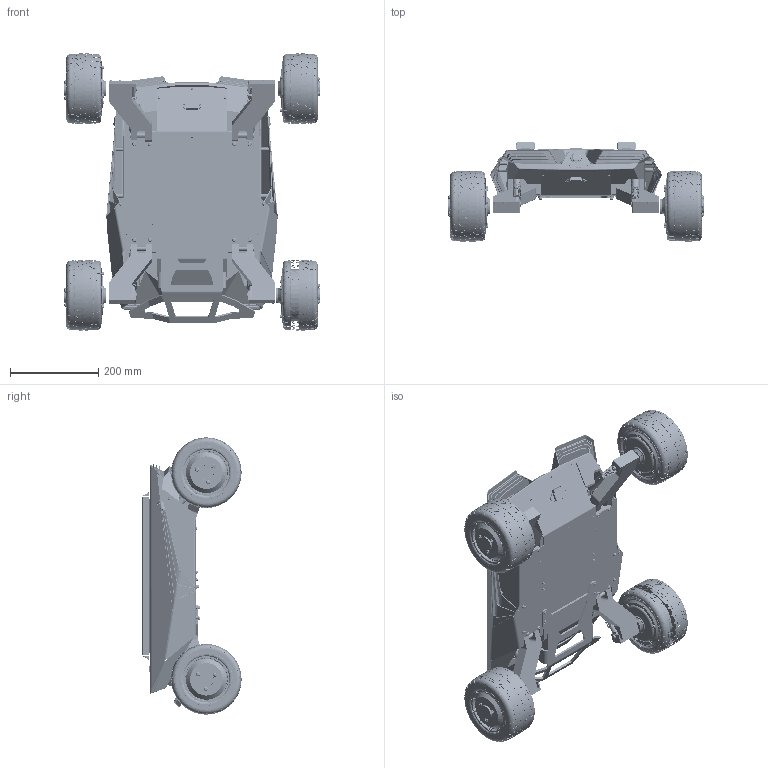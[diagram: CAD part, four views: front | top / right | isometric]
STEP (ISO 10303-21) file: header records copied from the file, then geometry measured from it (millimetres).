
FILE_DESCRIPTION (( 'STEP AP214' ), '1' );
FILE_NAME ('sm 俋楷耀倰.STEP', '2020-10-29T06:04:17', ( '' ), ( '' ), 'SwSTEP 2.0', 'SolidWorks 2017', '' );
FILE_SCHEMA (( 'AUTOMOTIVE_DESIGN' ));
Length unit declared in the file: millimetre
Products named in the file (1): sm 俋楷耀倰
Bounding box: 580.49 x 224.92 x 629.11 mm (x, y, z)
Surface area: 1892847.7 mm2 (no closed solid volume)
Topology: 0 solids, 543 shells, 6440 faces, 27701 edges, 20627 vertices
Faces by surface type: plane 1723, cylinder 1584, bspline 1584, torus 1289, cone 260
Entity records: 618497 total; most frequent: CARTESIAN_POINT 356626, ORIENTED_EDGE 38534, DIRECTION 31185, EDGE_CURVE 27692, VERTEX_POINT 20627, B_SPLINE_CURVE_WITH_KNOTS 12588, AXIS2_PLACEMENT_3D 12143, CIRCLE 7286
